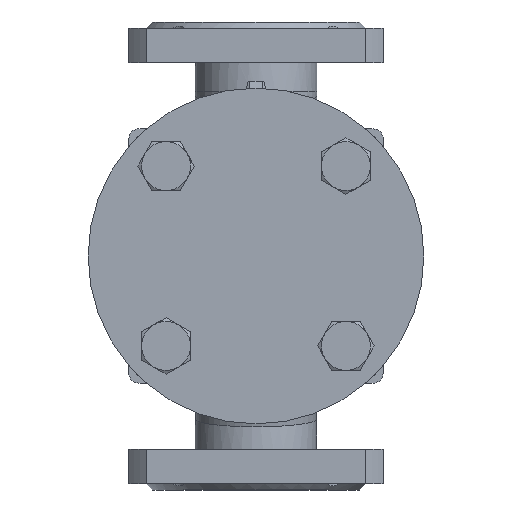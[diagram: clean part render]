
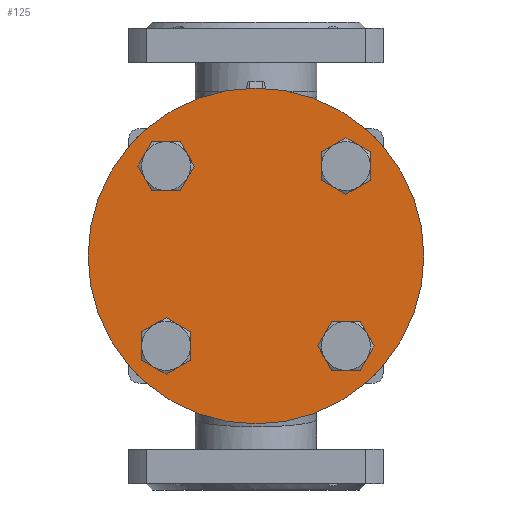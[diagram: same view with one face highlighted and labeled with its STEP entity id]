
A CAD part, front view. The second image highlights one B-rep face of the part: STEP entity #125.
In plain terms, the highlighted planar face has unit normal (0, -1, 0).
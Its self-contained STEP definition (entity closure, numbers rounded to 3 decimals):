
#125=ADVANCED_FACE('',(#8849,#8851,#8853,#8855,#8857),#8859,.F.);
#8849=FACE_BOUND('',#8850,.T.);
#8850=EDGE_LOOP('',(#21680));
#8851=FACE_BOUND('',#8852,.T.);
#8852=EDGE_LOOP('',(#21681));
#8853=FACE_BOUND('',#8854,.T.);
#8854=EDGE_LOOP('',(#21682));
#8855=FACE_BOUND('',#8856,.T.);
#8856=EDGE_LOOP('',(#21683));
#8857=FACE_BOUND('',#8858,.T.);
#8858=EDGE_LOOP('',(#21684));
#8859=PLANE('',#8860);
#8860=AXIS2_PLACEMENT_3D('',#8861,#8862,#8863);
#8861=CARTESIAN_POINT('',(0.,-135.,0.));
#8862=DIRECTION('',(0.,1.,0.));
#8863=DIRECTION('',(-1.,0.,0.));
#21680=ORIENTED_EDGE('',*,*,#29372,.F.);
#21681=ORIENTED_EDGE('',*,*,#29373,.F.);
#21682=ORIENTED_EDGE('',*,*,#29374,.F.);
#21683=ORIENTED_EDGE('',*,*,#29375,.F.);
#21684=ORIENTED_EDGE('',*,*,#29376,.F.);
#29372=EDGE_CURVE('',#32988,#32988,#32989,.T.);
#29373=EDGE_CURVE('',#32990,#32990,#32991,.T.);
#29374=EDGE_CURVE('',#32992,#32992,#32993,.T.);
#29375=EDGE_CURVE('',#32994,#32994,#32995,.T.);
#29376=EDGE_CURVE('',#32996,#32996,#32997,.T.);
#32988=VERTEX_POINT('',#38977);
#32989=CIRCLE('',#38978,82.5);
#32990=VERTEX_POINT('',#38982);
#32991=CIRCLE('',#38983,12.);
#32992=VERTEX_POINT('',#38987);
#32993=CIRCLE('',#38988,12.);
#32994=VERTEX_POINT('',#38992);
#32995=CIRCLE('',#38993,12.);
#32996=VERTEX_POINT('',#38997);
#32997=CIRCLE('',#38998,12.);
#38977=CARTESIAN_POINT('',(-82.5,-135.,0.));
#38978=AXIS2_PLACEMENT_3D('',#38979,#38980,#38981);
#38979=CARTESIAN_POINT('',(0.,-135.,0.));
#38980=DIRECTION('',(0.,1.,0.));
#38981=DIRECTION('',(-1.,0.,0.));
#38982=CARTESIAN_POINT('',(56.194,-135.,44.194));
#38983=AXIS2_PLACEMENT_3D('',#38984,#38985,#38986);
#38984=CARTESIAN_POINT('',(44.194,-135.,44.194));
#38985=DIRECTION('',(0.,-1.,0.));
#38986=DIRECTION('',(1.,0.,0.));
#38987=CARTESIAN_POINT('',(44.194,-135.,-56.194));
#38988=AXIS2_PLACEMENT_3D('',#38989,#38990,#38991);
#38989=CARTESIAN_POINT('',(44.194,-135.,-44.194));
#38990=DIRECTION('',(0.,-1.,0.));
#38991=DIRECTION('',(0.,0.,-1.));
#38992=CARTESIAN_POINT('',(-56.194,-135.,-44.194));
#38993=AXIS2_PLACEMENT_3D('',#38994,#38995,#38996);
#38994=CARTESIAN_POINT('',(-44.194,-135.,-44.194));
#38995=DIRECTION('',(0.,-1.,0.));
#38996=DIRECTION('',(-1.,0.,0.));
#38997=CARTESIAN_POINT('',(-44.194,-135.,56.194));
#38998=AXIS2_PLACEMENT_3D('',#38999,#39000,#39001);
#38999=CARTESIAN_POINT('',(-44.194,-135.,44.194));
#39000=DIRECTION('',(0.,-1.,0.));
#39001=DIRECTION('',(0.,0.,1.));
